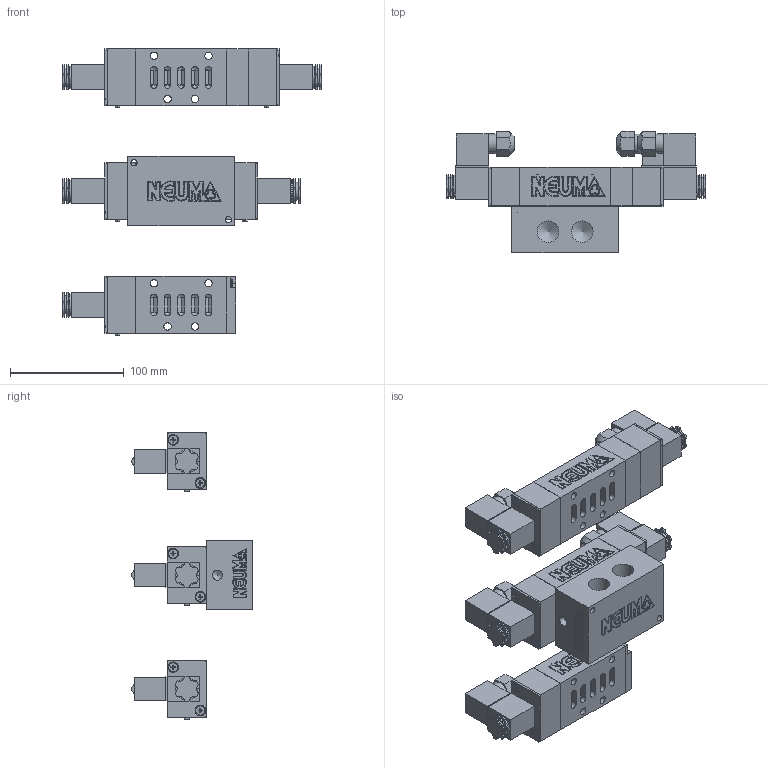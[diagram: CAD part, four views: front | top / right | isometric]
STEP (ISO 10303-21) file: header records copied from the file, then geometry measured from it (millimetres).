
FILE_DESCRIPTION (( 'STEP AP214' ), '1' );
FILE_NAME ('²Õ¦X¥ó3.STEP', '2016-08-15T03:21:12', ( 'Casper' ), ( '' ), 'SwSTEP 2.0', 'SolidWorks 2015', '' );
FILE_SCHEMA (( 'AUTOMOTIVE_DESIGN' ));
Length unit declared in the file: millimetre
Products named in the file (18): M4x0.7x30十字皿頭螺栓; NVA-8500-G01; 可動鐵管件組(2分); NV-5500-N01_NV5500手動操作器; NVA-8500-JXX_引導閥體; NV-ISO2-C02_NVISO1標準式本體; BM-ISO2-Y01_ISO2單獨式底座(01); 組合件3; NV-ISO2-32-D2; NVA-8500-D01_NVA8500中座; NV-ISO2-21-D2; 十字圓頭螺栓-M4x0.7x8; NVA-8500-K01_NVA8500端蓋; NV-ISO2-20-D2; M6x1.0x30內六角螺栓; NV-ISO2-22-D2; 2分-M8塑膠螺帽; 2分插頭型線圈(IP67)
Assembly tree (56 placements, depth 4):
  組合件3
    NV-ISO2-20-D2
      BM-ISO2-Y01_ISO2單獨式底座(01)
      NV-ISO2-22-D2
        NV-ISO2-C02_NVISO1標準式本體
        NVA-8500-JXX_引導閥體  x2
        NV-5500-N01_NV5500手動操作器  x2
        可動鐵管件組(2分)  x2
        NVA-8500-G01  x2
        M4x0.7x30十字皿頭螺栓  x4
        2分插頭型線圈(IP67)  x2
        2分-M8塑膠螺帽  x2
      M6x1.0x30內六角螺栓  x4
    NV-ISO2-21-D2
      NV-ISO2-C02_NVISO1標準式本體
      NVA-8500-JXX_引導閥體
      NV-5500-N01_NV5500手動操作器
      可動鐵管件組(2分)
      NVA-8500-G01
      M4x0.7x30十字皿頭螺栓  x2
      2分插頭型線圈(IP67)
      2分-M8塑膠螺帽
      NVA-8500-K01_NVA8500端蓋
      十字圓頭螺栓-M4x0.7x8  x2
    NV-ISO2-32-D2
      NV-ISO2-C02_NVISO1標準式本體
      NVA-8500-JXX_引導閥體  x2
      NV-5500-N01_NV5500手動操作器  x2
      可動鐵管件組(2分)  x2
      NVA-8500-G01  x2
      M4x0.7x30十字皿頭螺栓  x4
      2分插頭型線圈(IP67)  x2
      2分-M8塑膠螺帽  x2
      NVA-8500-D01_NVA8500中座
Bounding box: 228 x 106.77 x 251.5 mm (x, y, z)
Volume: 1065799.7 mm3; surface area: 270897.6 mm2
Topology: 72 solids, 72 shells, 3718 faces, 9834 edges, 6468 vertices
Faces by surface type: plane 2048, bspline 828, cylinder 607, cone 206, torus 29
Full cylindrical faces by diameter (mm): 1.7 x5, 2 x10, 3.24 x10, 3.3 x12, 3.6 x2, 4 x22, 4.3 x10, 4.5 x4, 5 x4, 5.5 x2, 6 x4, 6.5 x12, 6.9 x5, 7 x15, 8 x20, 8.7 x2, 8.9 x5, 9 x7, 9.4 x10, 10 x14, 10.44 x5, 10.5 x17, 11.94 x10, 12 x5, 14 x5, 15 x5, 15.25 x2, 16 x20, 17 x5, 19 x3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
Entity records: 47532 total; most frequent: CARTESIAN_POINT 14468, ORIENTED_EDGE 7406, DIRECTION 4766, EDGE_CURVE 3703, VERTEX_POINT 2513, LINE 1944, VECTOR 1944, EDGE_LOOP 1642
